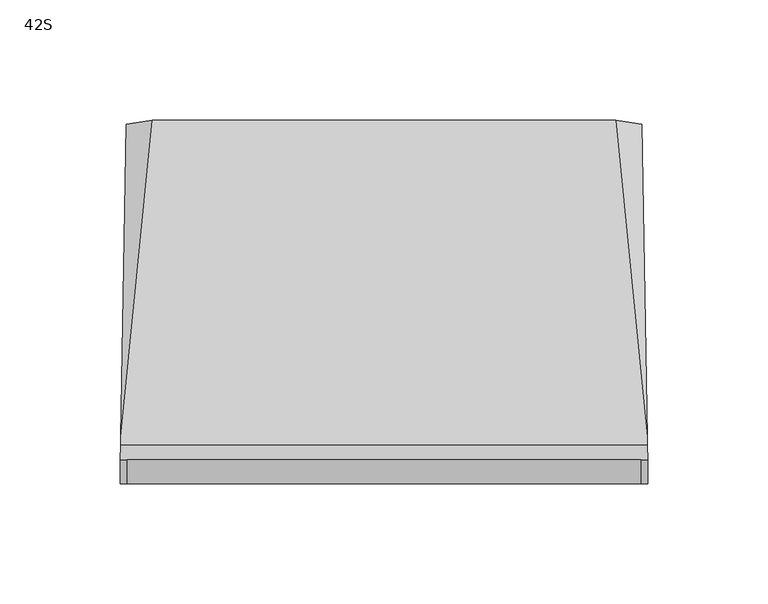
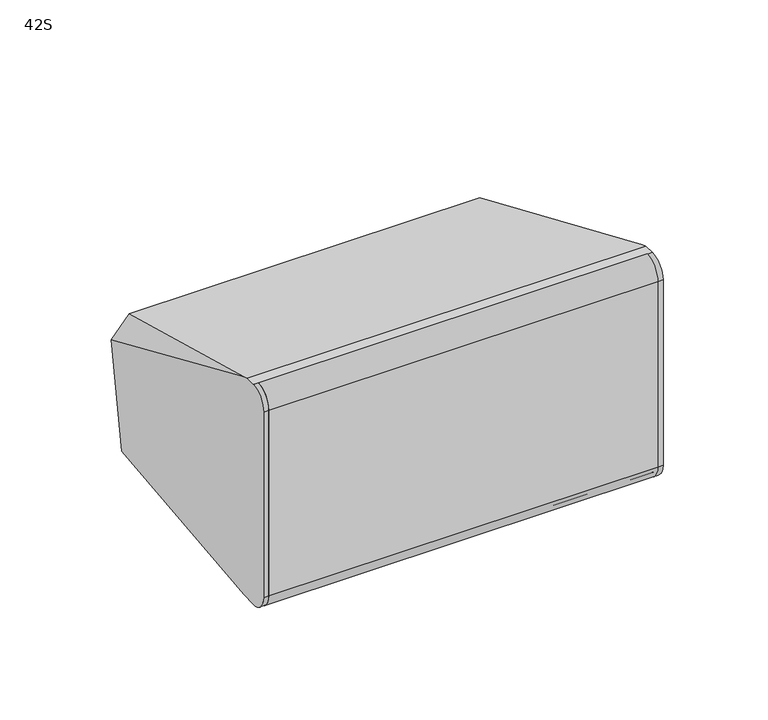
"""IFC4 building model written with IfcOpenShell, lengths in millimetres: proxy geometry, d&b xS-Series 42S Point Source : 42S."""

from ifc_helpers import new_model, si_unit, point, frame, frame_2d, origin, place, context, project, spatial, polyline, circle_curve, ellipse_curve, trimmed, segment, composite_curve, outline, extrude, source, transform, mapped, element, save
from ifc_brep_helpers import plane_surface, cylinder_surface, revolved_surface, advanced_brep


def proxy_42s_4e967d7d(model_context):
    return source(origin(), model_context, "Body", "SolidModel", [
        extrude(outline(composite_curve([segment(polyline([(-73.9650952, 54.0), (-73.9650952, -54.078429)]), True, "CONTINUOUS"), segment(trimmed(circle_curve(frame_2d((-66.0, -54.078429)), 7.9650952), [point((-73.9650952, -54.078429))], [point((-66.0, -62.0435242))], True, "CARTESIAN"), True, "CONTINUOUS"), segment(polyline([(-66.0, -62.0435242), (-66.0, -64.0)]), True, "CONTINUOUS"), segment(trimmed(circle_curve(frame_2d((-66.0, -54.0)), 10.0), [point((-66.0, -64.0))], [point((-76.0, -54.0))], False, "CARTESIAN"), True, "CONTINUOUS"), segment(polyline([(-76.0, -54.0), (-76.0, 54.0)]), True, "CONTINUOUS"), segment(trimmed(circle_curve(frame_2d((-65.9650952, 54.0)), 10.0349048), [point((-76.0, 54.0))], [point((-65.9650952, 64.0349048))], False, "CARTESIAN"), True, "CONTINUOUS"), segment(polyline([(-65.9650952, 64.0349048), (-65.9650952, 62.0)]), True, "CONTINUOUS"), segment(trimmed(circle_curve(frame_2d((-65.9650952, 54.0)), 8.0), [point((-65.9650952, 62.0))], [point((-73.9650952, 54.0))], True, "CARTESIAN"), True, "CONTINUOUS")], self_intersect=False)), frame((-107.0, 0.0, 0.0), z_axis=(1.0, 0.0, 0.0), x_axis=(0.0, 1.0, 0.0)), (0.0, 0.0, 1.0), 214.0),
        extrude(outline(polyline([(-73.6666667, -76.0), (-90.0, -76.0), (-90.0, -71.0), (-73.6666667, -71.0), (-73.6666667, -76.0)])), frame((0.0, 0.0, -25.3333333), z_axis=(0.0, 0.0, 1.0), x_axis=(1.0, 0.0, 0.0)), (0.0, 0.0, 1.0), 16.3333333),
        extrude(outline(polyline([(-55.0, -76.0), (-71.3333333, -76.0), (-71.3333333, -71.0), (-55.0, -71.0), (-55.0, -76.0)])), frame((0.0, 0.0, -25.3333333), z_axis=(0.0, 0.0, 1.0), x_axis=(1.0, 0.0, 0.0)), (0.0, 0.0, 1.0), 16.3333333),
        extrude(outline(polyline([(-55.0, -76.0), (-71.3333333, -76.0), (-71.3333333, -71.0), (-55.0, -71.0), (-55.0, -76.0)])), frame((0.0, 0.0, -44.0), z_axis=(0.0, 0.0, 1.0), x_axis=(1.0, 0.0, 0.0)), (0.0, 0.0, 1.0), 16.3333333),
        extrude(outline(composite_curve([segment(trimmed(circle_curve(frame_2d((-35.8333333, -81.8333333)), 8.1666667), [point((-35.8333333, -73.6666667))], [point((-35.8333333, -90.0))], False, "CARTESIAN"), True, "CONTINUOUS"), segment(trimmed(circle_curve(frame_2d((-35.8333333, -81.8333333)), 8.1666667), [point((-35.8333333, -90.0))], [point((-35.8333333, -73.6666667))], False, "CARTESIAN"), True, "CONTINUOUS")], self_intersect=False)), frame((0.0, -76.0, 0.0), z_axis=(0.0, 1.0, 0.0), x_axis=(0.0, 0.0, 1.0)), (0.0, 0.0, 1.0), 5.0),
        advanced_brep(
        [(-107.0, -66.0, -64.0), (107.0, -66.0, -64.0), (107.0, -66.0, -62.0435242), (-107.0, -66.0, -62.0435242), (107.0, -73.9650952, -54.078429), (-107.0, -73.9650952, -54.078429), (107.0, -73.9650952, 54.0), (-107.0, -73.9650952, 54.0), (107.0, -65.9650952, 62.0), (-107.0, -65.9650952, 62.0), (107.0, -65.9650952, 64.0), (-107.0, -65.9650952, 64.0), (109.8273531, -65.9650952, 64.0), (109.7253263, -60.0349048, 64.0), (-109.7253263, -60.0349048, 64.0), (-109.8273531, -65.9650952, 64.0), (-109.8279536, -66.0, -64.0), (-109.6679034, -56.6972655, -64.0), (-97.8946622, 61.6262346, -64.0), (97.8946622, 61.6262346, -64.0), (109.6679034, -56.6972655, -64.0), (109.8279536, -66.0, -64.0), (96.5142171, 75.4999923, 14.6819894), (-96.5142171, 75.4999923, 14.6819894), (-109.6679034, -56.6972655, 62.7855103), (109.6679034, -56.6972655, 62.7855103), (-107.602215, 63.3685056, -54.1190905), (107.602215, 63.3685056, -54.1190905), (107.4240938, 73.7215924, 4.5961827), (-107.4240938, 73.7215924, 4.5961827), (-109.9986507, -75.921571, -54.078429), (-109.9993995, -75.9650952, 54.0), (109.9993995, -75.9650952, 54.0), (109.9993995, -75.9650952, -54.078429), (-107.0, -75.9650952, 54.0), (-107.0, -75.9650952, -54.078429), (-95.447753, 64.9457885, -45.1738745), (-82.947753, 62.7751863, -57.4839714), (-67.052247, 62.7751863, -57.4839714), (-54.552247, 64.9457885, -45.1738745), (-54.552247, 72.167034, -4.2201563), (-67.052247, 74.3376362, 8.0899406), (-82.947753, 74.3376362, 8.0899406), (-95.447753, 72.167034, -4.2201563), (52.1, 64.9457885, -45.1738745), (64.6, 62.7751863, -57.4839714), (82.4, 62.7751863, -57.4839714), (94.9, 64.9457885, -45.1738745), (94.9, 72.167034, -4.2201563), (82.4, 74.3376362, 8.0899406), (64.6, 74.3376362, 8.0899406), (52.1, 72.167034, -4.2201563), (-95.447753, 60.0217497, -44.3056336), (-95.447753, 67.2429952, -3.3519154), (-82.947753, 69.4135974, 8.9581815), (-67.052247, 69.4135974, 8.9581815), (-54.552247, 67.2429952, -3.3519154), (-54.552247, 60.0217497, -44.3056336), (-67.052247, 57.8511475, -56.6157306), (-82.947753, 57.8511475, -56.6157306), (52.1, 60.0217497, -44.3056336), (52.1, 67.2429952, -3.3519154), (64.6, 69.4135974, 8.9581815), (82.4, 69.4135974, 8.9581815), (94.9, 67.2429952, -3.3519154), (94.9, 60.0217497, -44.3056336), (82.4, 57.8511475, -56.6157306), (64.6, 57.8511475, -56.6157306), (107.0, -75.921571, -54.078429), (107.0, -75.9650952, 54.0)],
        [
            (0, 1),
            (1, 2),
            (2, 3),
            (3, 0),
            (2, 4, circle_curve(frame((107.0, -66.0, -54.078429), z_axis=(-1.0, 0.0, 0.0), x_axis=(0.0, 0.0, -1.0)), 7.9650952)),
            (4, 5),
            (5, 3, circle_curve(frame((-107.0, -66.0, -54.078429), z_axis=(1.0, 0.0, 0.0), x_axis=(0.0, 0.0, -1.0)), 7.9650952)),
            (4, 6),
            (6, 7),
            (7, 5),
            (6, 8, circle_curve(frame((107.0, -65.9650952, 54.0), z_axis=(-1.0, 0.0, 0.0), x_axis=(0.0, 0.0, -1.0)), 8.0)),
            (8, 9),
            (9, 7, circle_curve(frame((-107.0, -65.9650952, 54.0), z_axis=(1.0, 0.0, 0.0), x_axis=(0.0, 0.0, -1.0)), 8.0)),
            (8, 10),
            (10, 11),
            (11, 9),
            (10, 12),
            (12, 13),
            (13, 14),
            (14, 15),
            (15, 11),
            (0, 16),
            (16, 17),
            (17, 18),
            (18, 19),
            (19, 20),
            (20, 21),
            (21, 1),
            (22, 23),
            (23, 24),
            (24, 14),
            (13, 25),
            (25, 22),
            (26, 18),
            (17, 26),
            (19, 27),
            (27, 20),
            (28, 22),
            (25, 28),
            (23, 29),
            (29, 24),
            (29, 26),
            (16, 30, ellipse_curve(frame((-109.8279536, -66.0, -54.078429), z_axis=(-0.999852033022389, 0.017202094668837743, 0.0), x_axis=(-0.01720209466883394, -0.999852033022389, 0.0)), 9.9230392, 9.921571)),
            (30, 31),
            (31, 15, ellipse_curve(frame((-109.8273531, -65.9650952, 54.0), z_axis=(-0.999852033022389, 0.017202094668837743, 0.0), x_axis=(-0.01720209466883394, -0.999852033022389, 0.0)), 10.0014799, 10.0)),
            (12, 32, ellipse_curve(frame((109.8273531, -65.9650952, 54.0), z_axis=(0.9998520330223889, 0.017202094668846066, 0.0), x_axis=(-0.017202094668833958, 0.999852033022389, 0.0)), 10.0014799, 10.0)),
            (32, 33),
            (33, 21, ellipse_curve(frame((109.8279536, -66.0, -54.078429), z_axis=(0.9998520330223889, 0.017202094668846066, 0.0), x_axis=(-0.017202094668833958, 0.999852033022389, 0.0)), 9.9230392, 9.921571)),
            (27, 28),
            (11, 34, circle_curve(frame((-107.0, -65.9650952, 54.0), z_axis=(1.0, 0.0, 0.0), x_axis=(0.0, 0.0, -1.0)), 10.0)),
            (34, 35),
            (35, 0, circle_curve(frame((-107.0, -66.0, -54.078429), z_axis=(1.0, 0.0, 0.0), x_axis=(0.0, 0.0, -1.0)), 9.921571)),
            (35, 30),
            (34, 31),
            (36, 37, circle_curve(frame((-82.947753, 64.9457885, -45.1738745), z_axis=(0.0, -0.9848077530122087, 0.17364817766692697), x_axis=(0.0, 0.17364817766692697, 0.9848077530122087)), 12.5)),
            (37, 38),
            (38, 39, circle_curve(frame((-67.052247, 64.9457885, -45.1738745), z_axis=(0.0, -0.9848077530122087, 0.17364817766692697), x_axis=(0.0, 0.17364817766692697, 0.9848077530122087)), 12.5)),
            (39, 40),
            (40, 41, circle_curve(frame((-67.052247, 72.167034, -4.2201563), z_axis=(0.0, -0.9848077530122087, 0.17364817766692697), x_axis=(0.0, 0.17364817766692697, 0.9848077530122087)), 12.5)),
            (41, 42),
            (42, 43, circle_curve(frame((-82.947753, 72.167034, -4.2201563), z_axis=(0.0, -0.9848077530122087, 0.17364817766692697), x_axis=(0.0, 0.17364817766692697, 0.9848077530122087)), 12.5)),
            (43, 36),
            (44, 45, circle_curve(frame((64.6, 64.9457885, -45.1738745), z_axis=(0.0, -0.9848077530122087, 0.17364817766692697), x_axis=(0.0, 0.17364817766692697, 0.9848077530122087)), 12.5)),
            (45, 46),
            (46, 47, circle_curve(frame((82.4, 64.9457885, -45.1738745), z_axis=(0.0, -0.9848077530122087, 0.17364817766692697), x_axis=(0.0, 0.17364817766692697, 0.9848077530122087)), 12.5)),
            (47, 48),
            (48, 49, circle_curve(frame((82.4, 72.167034, -4.2201563), z_axis=(0.0, -0.9848077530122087, 0.17364817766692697), x_axis=(0.0, 0.17364817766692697, 0.9848077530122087)), 12.5)),
            (49, 50),
            (50, 51, circle_curve(frame((64.6, 72.167034, -4.2201563), z_axis=(0.0, -0.9848077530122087, 0.17364817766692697), x_axis=(0.0, 0.17364817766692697, 0.9848077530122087)), 12.5)),
            (51, 44),
            (52, 53),
            (53, 54, circle_curve(frame((-82.947753, 67.2429952, -3.3519154), z_axis=(0.0, 0.9848077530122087, -0.17364817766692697), x_axis=(0.0, 0.17364817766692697, 0.9848077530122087)), 12.5)),
            (54, 55),
            (55, 56, circle_curve(frame((-67.052247, 67.2429952, -3.3519154), z_axis=(0.0, 0.9848077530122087, -0.17364817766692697), x_axis=(0.0, 0.17364817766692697, 0.9848077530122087)), 12.5)),
            (56, 57),
            (57, 58, circle_curve(frame((-67.052247, 60.0217497, -44.3056336), z_axis=(0.0, 0.9848077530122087, -0.17364817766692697), x_axis=(0.0, 0.17364817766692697, 0.9848077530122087)), 12.5)),
            (58, 59),
            (59, 52, circle_curve(frame((-82.947753, 60.0217497, -44.3056336), z_axis=(0.0, 0.9848077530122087, -0.17364817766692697), x_axis=(0.0, 0.17364817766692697, 0.9848077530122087)), 12.5)),
            (60, 61),
            (61, 62, circle_curve(frame((64.6, 67.2429952, -3.3519154), z_axis=(0.0, 0.9848077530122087, -0.17364817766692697), x_axis=(0.0, 0.17364817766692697, 0.9848077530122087)), 12.5)),
            (62, 63),
            (63, 64, circle_curve(frame((82.4, 67.2429952, -3.3519154), z_axis=(0.0, 0.9848077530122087, -0.17364817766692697), x_axis=(0.0, 0.17364817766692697, 0.9848077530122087)), 12.5)),
            (64, 65),
            (65, 66, circle_curve(frame((82.4, 60.0217497, -44.3056336), z_axis=(0.0, 0.9848077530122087, -0.17364817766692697), x_axis=(0.0, 0.17364817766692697, 0.9848077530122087)), 12.5)),
            (66, 67),
            (67, 60, circle_curve(frame((64.6, 60.0217497, -44.3056336), z_axis=(0.0, 0.9848077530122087, -0.17364817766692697), x_axis=(0.0, 0.17364817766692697, 0.9848077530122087)), 12.5)),
            (1, 68, circle_curve(frame((107.0, -66.0, -54.078429), z_axis=(-1.0, 0.0, 0.0), x_axis=(0.0, 0.0, -1.0)), 9.921571)),
            (68, 69),
            (69, 10, circle_curve(frame((107.0, -65.9650952, 54.0), z_axis=(-1.0, 0.0, 0.0), x_axis=(0.0, 0.0, -1.0)), 10.0)),
            (33, 68),
            (32, 69),
            (59, 37),
            (36, 52),
            (58, 38),
            (57, 39),
            (56, 40),
            (55, 41),
            (54, 42),
            (53, 43),
            (67, 45),
            (44, 60),
            (66, 46),
            (65, 47),
            (64, 48),
            (63, 49),
            (62, 50),
            (61, 51),
        ],
        [
            plane_surface(frame((-107.0, -66.0, -64.0), z_axis=(0.0, -1.0, 0.0), x_axis=(1.0, 0.0, 0.0))),
            cylinder_surface(frame((107.0, -66.0, -54.078429), z_axis=(-1.0, 0.0, 0.0), x_axis=(0.0, 0.0, -1.0)), 7.9650952),
            plane_surface(frame((-107.0, -73.9650952, -54.078429), z_axis=(0.0, -1.0, 0.0), x_axis=(1.0, 0.0, 0.0))),
            cylinder_surface(frame((107.0, -65.9650952, 54.0), z_axis=(-1.0, 0.0, 0.0), x_axis=(0.0, 0.0, -1.0)), 8.0),
            plane_surface(frame((-107.0, -65.9650952, 62.0), z_axis=(0.0, -1.0, 0.0), x_axis=(1.0, 0.0, 0.0))),
            plane_surface(frame((-107.0, -65.9650952, 64.0), z_axis=(0.0, 0.0, 1.0), x_axis=(1.0, 0.0, 0.0))),
            plane_surface(frame((-107.0, -60.0349048, -64.0), z_axis=(0.0, 0.0, -1.0), x_axis=(1.0, 0.0, 0.0))),
            plane_surface(frame((0.0, 76.0, 14.5000481), z_axis=(0.0, 0.34194264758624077, 0.939720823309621), x_axis=(-1.0, 0.0, 0.0))),
            plane_surface(frame((-103.232233, 76.0, -57.232233), z_axis=(-0.7053631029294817, 0.07018394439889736, -0.7053631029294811), x_axis=(0.7071067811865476, 0.0, -0.7071067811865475))),
            plane_surface(frame((103.232233, 76.0, -57.232233), z_axis=(0.7053631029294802, 0.07018394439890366, -0.7053631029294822), x_axis=(0.7071067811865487, 0.0, 0.7071067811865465))),
            plane_surface(frame((103.232233, 76.0, 7.7322812), z_axis=(0.6719558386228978, 0.31136907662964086, 0.671955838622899), x_axis=(-0.7071067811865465, 0.0, 0.7071067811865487))),
            plane_surface(frame((-103.232233, 76.0, 7.7322812), z_axis=(-0.6719558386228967, 0.311369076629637, 0.6719558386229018), x_axis=(-0.7071067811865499, 0.0, -0.7071067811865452))),
            plane_surface(frame((-110.3665166, -97.3033587, 100.0), z_axis=(-0.999852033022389, 0.017202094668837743, 0.0), x_axis=(0.0, 0.0, -1.0))),
            plane_surface(frame((107.2474477, 83.9889493, 100.0), z_axis=(0.9998520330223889, 0.017202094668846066, 0.0), x_axis=(0.0, 0.0, -1.0))),
            plane_surface(frame((-107.0, -66.0, -64.0), z_axis=(1.0, 0.0, 0.0), x_axis=(0.0, 1.0, 0.0))),
            cylinder_surface(frame((-107.0, -66.0, -54.078429), z_axis=(-1.0, 0.0, 0.0), x_axis=(0.0, 0.0, -1.0)), 9.921571),
            plane_surface(frame((-112.6426388, -75.9650952, -54.078429), z_axis=(0.0, -1.0, 0.0), x_axis=(1.0, 0.0, 0.0))),
            cylinder_surface(frame((-107.0, -65.9650952, 54.0), z_axis=(-1.0, 0.0, 0.0), x_axis=(0.0, 0.0, -1.0)), 10.0),
            plane_surface(frame((-250.0, 58.5830883, -81.2585403), z_axis=(0.0, 0.9848077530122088, -0.17364817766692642), x_axis=(1.0, 0.0, 0.0))),
            plane_surface(frame((-82.947753, 62.192352, -31.9955367), z_axis=(0.0, 0.9848077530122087, -0.17364817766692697), x_axis=(-1.0, 0.0, 0.0))),
            plane_surface(frame((107.0, -66.0, -64.0), z_axis=(-1.0, 0.0, 0.0), x_axis=(0.0, -1.0, 0.0))),
            cylinder_surface(frame((113.0, -66.0, -54.078429), z_axis=(-1.0, 0.0, 0.0), x_axis=(0.0, 0.0, -1.0)), 9.921571),
            plane_surface(frame((107.0, -75.9650952, -54.078429), z_axis=(0.0, -1.0, 0.0), x_axis=(1.0, 0.0, 0.0))),
            cylinder_surface(frame((113.0, -65.9650952, 54.0), z_axis=(-1.0, 0.0, 0.0), x_axis=(0.0, 0.0, -1.0)), 10.0),
            revolved_surface(polyline([(-82.947753, 62.19235191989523, -31.995536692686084), (-82.947753, 67.11639073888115, -32.863777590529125)]), (-82.947753, 64.9457885, -45.1738745), (0.0, -0.9848077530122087, 0.17364817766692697)),
            plane_surface(frame((-82.947753, 57.8511475, -56.6157306), z_axis=(0.0, 0.17364817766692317, 0.9848077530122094), x_axis=(0.0, 0.9848077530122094, -0.17364817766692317))),
            revolved_surface(polyline([(-67.052247, 62.19235191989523, -31.995536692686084), (-67.052247, 67.11639073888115, -32.863777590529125)]), (-67.052247, 64.9457885, -45.1738745), (0.0, -0.9848077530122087, 0.17364817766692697)),
            plane_surface(frame((-54.552247, 60.0217497, -44.3056336), z_axis=(-1.0, 0.0, 0.0), x_axis=(0.0, 0.9848077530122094, -0.17364817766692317))),
            revolved_surface(polyline([(-67.052247, 69.41359740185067, 8.958181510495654), (-67.052247, 74.33763622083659, 8.089940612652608)]), (-67.052247, 72.167034, -4.2201563), (0.0, -0.9848077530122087, 0.17364817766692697)),
            plane_surface(frame((-67.052247, 69.4135974, 8.9581815), z_axis=(0.0, -0.17364817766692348, -0.9848077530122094), x_axis=(0.0, 0.9848077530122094, -0.17364817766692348))),
            revolved_surface(polyline([(-82.947753, 69.41359740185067, 8.958181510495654), (-82.947753, 74.33763622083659, 8.089940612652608)]), (-82.947753, 72.167034, -4.2201563), (0.0, -0.9848077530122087, 0.17364817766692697)),
            plane_surface(frame((-95.447753, 67.2429952, -3.3519154), z_axis=(1.0, 0.0, 0.0), x_axis=(0.0, 0.9848077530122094, -0.17364817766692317))),
            revolved_surface(polyline([(64.6, 62.19235191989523, -31.995536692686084), (64.6, 67.11639073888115, -32.863777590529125)]), (64.6, 64.9457885, -45.1738745), (0.0, -0.9848077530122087, 0.17364817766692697)),
            plane_surface(frame((64.6, 57.8511475, -56.6157306), z_axis=(0.0, 0.17364817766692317, 0.9848077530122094), x_axis=(0.0, 0.9848077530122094, -0.17364817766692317))),
            revolved_surface(polyline([(82.4, 62.19235191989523, -31.995536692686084), (82.4, 67.11639073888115, -32.863777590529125)]), (82.4, 64.9457885, -45.1738745), (0.0, -0.9848077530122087, 0.17364817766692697)),
            plane_surface(frame((94.9, 60.0217497, -44.3056336), z_axis=(-1.0, 0.0, 0.0), x_axis=(0.0, 0.9848077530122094, -0.17364817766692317))),
            revolved_surface(polyline([(82.4, 69.41359740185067, 8.958181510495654), (82.4, 74.33763622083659, 8.089940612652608)]), (82.4, 72.167034, -4.2201563), (0.0, -0.9848077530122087, 0.17364817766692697)),
            plane_surface(frame((82.4, 69.4135974, 8.9581815), z_axis=(0.0, -0.17364817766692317, -0.9848077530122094), x_axis=(0.0, 0.9848077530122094, -0.17364817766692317))),
            revolved_surface(polyline([(64.6, 69.41359740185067, 8.958181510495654), (64.6, 74.33763622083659, 8.089940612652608)]), (64.6, 72.167034, -4.2201563), (0.0, -0.9848077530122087, 0.17364817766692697)),
            plane_surface(frame((52.1, 67.2429952, -3.3519154), z_axis=(1.0, 0.0, 0.0), x_axis=(0.0, 0.9848077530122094, -0.17364817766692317))),
        ],
        [
            (0, [[1, 2, 3, 4]]),
            (1, [[-3, 5, 6, 7]]),
            (2, [[-6, 8, 9, 10]]),
            (3, [[-9, 11, 12, 13]]),
            (4, [[-12, 14, 15, 16]]),
            (5, [[-15, 17, 18, 19, 20, 21]]),
            (6, [[-1, 22, 23, 24, 25, 26, 27, 28]]),
            (7, [[29, 30, 31, -19, 32, 33]]),
            (8, [[34, -24, 35]]),
            (9, [[-26, 36, 37]]),
            (10, [[38, -33, 39]]),
            (11, [[-30, 40, 41]]),
            (12, [[-20, -31, -41, 42, -35, -23, 43, 44, 45]]),
            (13, [[-18, 46, 47, 48, -27, -37, 49, -39, -32]]),
            (14, [[50, 51, 52, -4, -7, -10, -13, -16]]),
            (15, [[-52, 53, -43, -22]]),
            (16, [[-51, 54, -44, -53]]),
            (17, [[-50, -21, -45, -54]]),
            (18, [[-25, -34, -42, -40, -29, -38, -49, -36], [55, 56, 57, 58, 59, 60, 61, 62], [63, 64, 65, 66, 67, 68, 69, 70]]),
            (19, [[71, 72, 73, 74, 75, 76, 77, 78]]),
            (19, [[79, 80, 81, 82, 83, 84, 85, 86]]),
            (20, [[87, 88, 89, -14, -11, -8, -5, -2]]),
            (21, [[-87, -28, -48, 90]]),
            (22, [[-88, -90, -47, 91]]),
            (23, [[-89, -91, -46, -17]]),
            (24, [[-78, 92, -55, 93]]),
            (25, [[-77, 94, -56, -92]]),
            (26, [[-76, 95, -57, -94]]),
            (27, [[-75, 96, -58, -95]]),
            (28, [[-74, 97, -59, -96]]),
            (29, [[-73, 98, -60, -97]]),
            (30, [[-72, 99, -61, -98]]),
            (31, [[-71, -93, -62, -99]]),
            (32, [[-86, 100, -63, 101]]),
            (33, [[-85, 102, -64, -100]]),
            (34, [[-84, 103, -65, -102]]),
            (35, [[-83, 104, -66, -103]]),
            (36, [[-82, 105, -67, -104]]),
            (37, [[-81, 106, -68, -105]]),
            (38, [[-80, 107, -69, -106]]),
            (39, [[-79, -101, -70, -107]]),
        ],
    ),
        extrude(outline(composite_curve([segment(trimmed(circle_curve(frame_2d((0.0, -12.0)), 12.0), [point((0.0, -24.0))], [point((0.0, 0.0))], False, "CARTESIAN"), True, "CONTINUOUS"), segment(trimmed(circle_curve(frame_2d((0.0, -12.0)), 12.0), [point((0.0, 0.0))], [point((0.0, -24.0))], False, "CARTESIAN"), True, "CONTINUOUS")], self_intersect=False)), frame((74.8471384, 63.8750306, -51.2464444), z_axis=(0.0, -0.9848077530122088, 0.17364817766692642), x_axis=(-1.0, 0.0, 0.0)), (0.0, 0.0, 1.0), 5.0),
        extrude(outline(composite_curve([segment(trimmed(circle_curve(frame_2d((0.0, -42.0)), 12.0), [point((0.0, -54.0))], [point((0.0, -30.0))], False, "CARTESIAN"), True, "CONTINUOUS"), segment(trimmed(circle_curve(frame_2d((0.0, -42.0)), 12.0), [point((0.0, -30.0))], [point((0.0, -54.0))], False, "CARTESIAN"), True, "CONTINUOUS")], self_intersect=False)), frame((74.8471384, 63.8750306, -51.2464444), z_axis=(0.0, -0.9848077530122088, 0.17364817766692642), x_axis=(-1.0, 0.0, 0.0)), (0.0, 0.0, 1.0), 5.0),
    ])


if __name__ == "__main__":
    model = new_model("IFC4")
    model_context = context("Model", 3, world=origin())
    ifc_project = project(units=[si_unit("LENGTHUNIT", "METRE", prefix="MILLI")], contexts=[model_context])
    site = spatial("IfcSite", under=ifc_project)
    building = spatial("IfcBuilding", under=site)
    placement = place(None, origin())
    proxy_42s_shape = proxy_42s_4e967d7d(model_context)
    element("IfcBuildingElementProxy", 1, Name="d&b xS-Series 42S Point Source : 42S", ObjectType="d&b xS-Series 42S Point Source : 42S", at=placement, inside=building, context=model_context, shape_type="MappedRepresentation", body=[
        mapped(proxy_42s_shape, transform((0.0, 0.0, 0.0), x_axis=(1.0, 0.0, 0.0), y_axis=(0.0, 1.0, 0.0), z_axis=(0.0, 0.0, 1.0))),
    ])
    save(model, "model.ifc")
